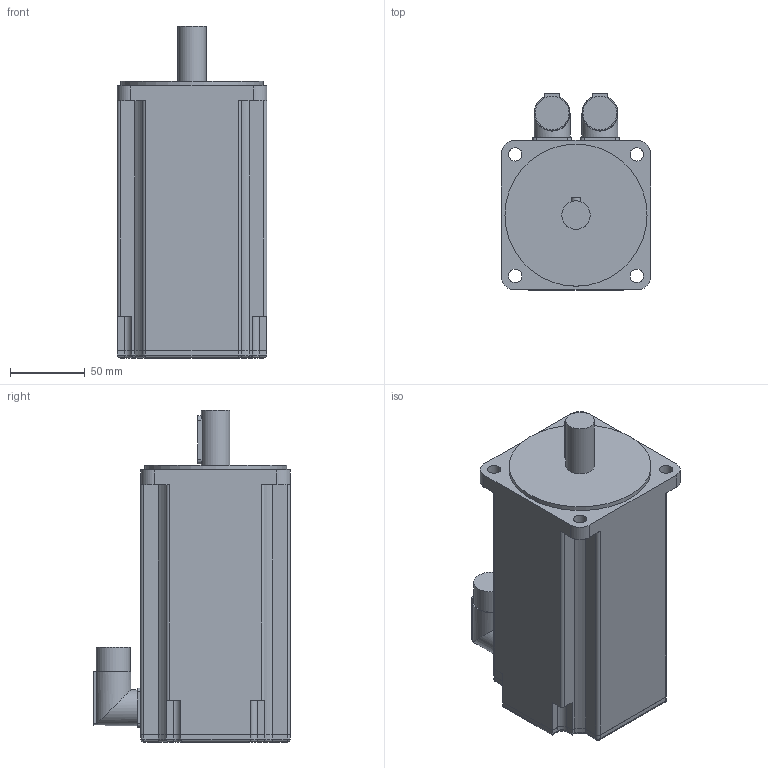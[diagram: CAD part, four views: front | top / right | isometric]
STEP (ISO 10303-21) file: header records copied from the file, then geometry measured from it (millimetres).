
FILE_DESCRIPTION(/* description */ (''),/* implementation_level */ '2;1');
FILE_NAME(/* name */ '\\Lafnas01\disegni\Archivi Lafert\3D\CAD 3D\MODELLI\Assiemi clienti\Serad\Modelli 3D Serad\B63Q\Resolver\Res With Brake\B6304Qxx6B052033.ipt.stp',/* time_stamp */ '2015-09-07T10:51:16+02:00',/* author */ ('Pastrello Ylenia'),/* organization */ (''),/* preprocessor_version */ 'ST-DEVELOPER v15.6',/* originating_system */ 'Autodesk Inventor 2015',/* authorisation */ '');
FILE_SCHEMA (('AUTOMOTIVE_DESIGN { 1 0 10303 214 3 1 1 }'));
Length unit declared in the file: millimetre
Products named in the file (1): B6304Qxx6B052033
Bounding box: 100 x 131.5 x 222 mm (x, y, z)
Volume: 1700946.3 mm3; surface area: 101949.5 mm2
Topology: 1 solids, 1 shells, 162 faces, 420 edges, 270 vertices
Faces by surface type: plane 76, cylinder 74, torus 8, sphere 4
Full cylindrical faces by diameter (mm): 9 x4, 19 x1, 22.7 x2, 24 x2, 95 x1
Entity records: 5018 total; most frequent: CARTESIAN_POINT 973, DIRECTION 864, ORIENTED_EDGE 812, EDGE_CURVE 406, AXIS2_PLACEMENT_3D 305, VERTEX_POINT 266, LINE 254, VECTOR 254
